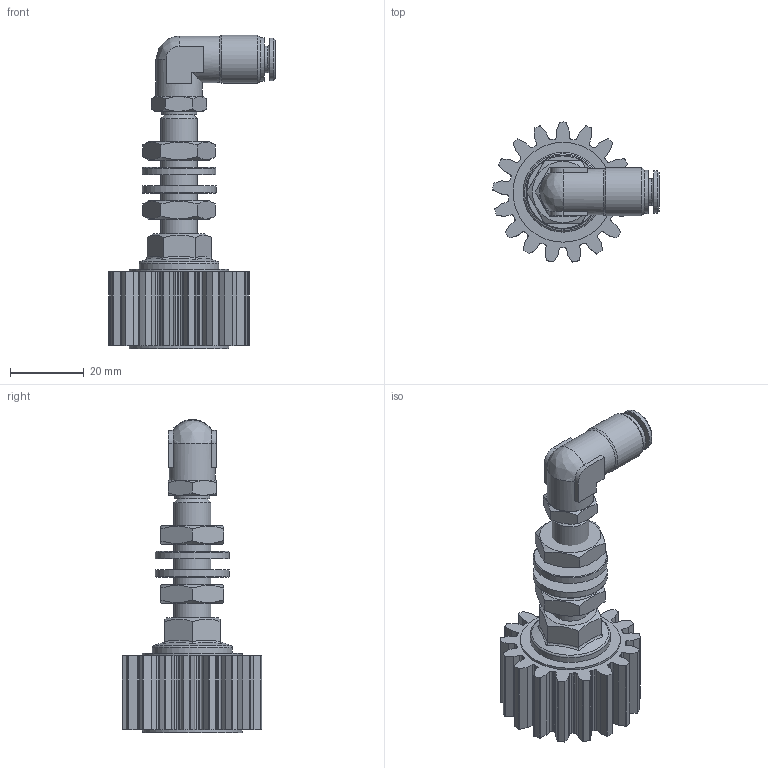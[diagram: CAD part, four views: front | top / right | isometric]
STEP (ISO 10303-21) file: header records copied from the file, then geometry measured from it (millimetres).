
FILE_DESCRIPTION (( 'STEP AP214' ), '1' );
FILE_NAME ('012_13_02_20_17AZ.STEP', '2026-04-01T12:53:55', ( '' ), ( '' ), 'SwSTEP 2.0', 'SolidWorks 2022', '' );
FILE_SCHEMA (( 'AUTOMOTIVE_DESIGN' ));
Length unit declared in the file: millimetre
Products named in the file (13): H202225_HDS_022_6_M6_28.09.22; U_Scheibe_10.5; H214667-HDS_1-8_M6X1Z; OR 7.2X1.9; DR6-C_HDX_25.07.16; Mutter_M10; 12012_06_01_Scheibe-CRS-VA_27.SLDASM; 012_13_02_20_17AZ; R11155-N2; 012_06_Senkschraube; Schmierzahnrad_02_20_17_G; Achse_M10_1_Schmierzahnrad
Assembly tree (14 placements, depth 4):
  012_13_02_20_17AZ
    Schmierzahnrad_02_20_17_G
    Achse_M10_1_Schmierzahnrad
    012_06_Senkschraube
    12012_06_01_Scheibe-CRS-VA_27.SLDASM
    Mutter_M10  x2
    U_Scheibe_10.5  x2
    H202225_HDS_022_6_M6_28.09.22
      R11155-N2
      DR6-C_HDX_25.07.16
      H214667-HDS_1-8_M6X1Z
        H214667-HDS_1-8_M6X1Z
        OR 7.2X1.9
Bounding box: 44.98 x 37.82 x 84.7 mm (x, y, z)
Volume: 29319.2 mm3; surface area: 18034.5 mm2
Topology: 12 solids, 12 shells, 705 faces, 1902 edges, 1258 vertices
Faces by surface type: plane 431, cylinder 125, bspline 95, cone 50, torus 4
Full cylindrical faces by diameter (mm): 2 x1, 4 x1, 4.6 x1, 5 x1, 5.5 x1, 6 x2, 6.2 x1, 6.3 x1, 7.2 x1, 8.5 x2, 9 x2, 9.5 x1, 9.9 x1, 10 x2, 10.1 x2, 10.3 x1, 10.5 x2, 11.5 x1, 11.7 x1, 12.5 x2, 13 x1, 20 x2, 21.6 x1, 27 x2
Entity records: 29572 total; most frequent: CARTESIAN_POINT 11706, ORIENTED_EDGE 3494, DIRECTION 2979, EDGE_CURVE 1747, VERTEX_POINT 1190, LINE 1177, VECTOR 1177, AXIS2_PLACEMENT_3D 901
